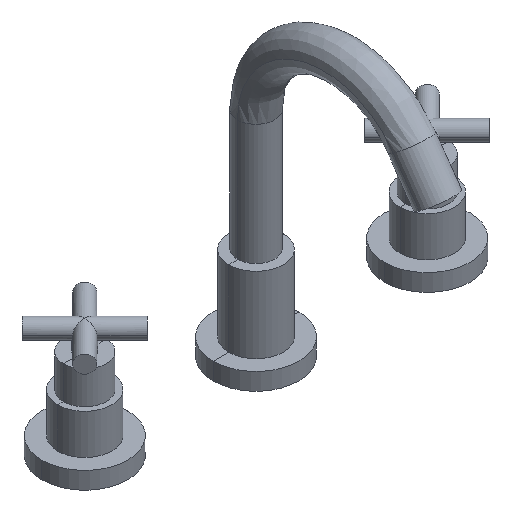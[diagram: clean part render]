
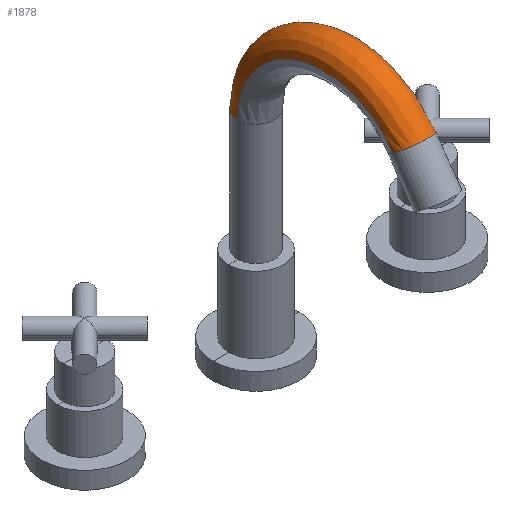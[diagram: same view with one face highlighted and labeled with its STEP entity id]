
A CAD part, isometric view. The second image highlights one B-rep face of the part: STEP entity #1878.
In plain terms, the highlighted free-form (B-spline) face has degree [2, 2] with [5, 5] control points.
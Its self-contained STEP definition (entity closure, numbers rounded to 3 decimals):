
#1779 = VERTEX_POINT('',#1780);
#1780 = CARTESIAN_POINT('',(-13.,-109.149,
    184.415));
#1787 = VERTEX_POINT('',#1788);
#1788 = CARTESIAN_POINT('',(13.,-109.149,
    184.415));
#1811 = EDGE_CURVE('',#1787,#1779,#1812,.T.);
#1812 = CIRCLE('',#1813,13.);
#1813 = AXIS2_PLACEMENT_3D('',#1814,#1815,#1816);
#1814 = CARTESIAN_POINT('',(0.,-109.149,
    184.415));
#1815 = DIRECTION('',(0.,-0.574,
    -0.819));
#1816 = DIRECTION('',(1.,0.,0.));
#1827 = EDGE_CURVE('',#1828,#1787,#1830,.T.);
#1828 = VERTEX_POINT('',#1829);
#1829 = CARTESIAN_POINT('',(13.,0.,
    150.));
#1830 = CIRCLE('',#1831,60.);
#1831 = AXIS2_PLACEMENT_3D('',#1832,#1833,#1834);
#1832 = CARTESIAN_POINT('',(13.,-60.,
    150.));
#1833 = DIRECTION('',(1.,0.,0.));
#1834 = DIRECTION('',(0.,-0.819,0.574));
#1837 = VERTEX_POINT('',#1838);
#1838 = CARTESIAN_POINT('',(-13.,0.,
    150.));
#1845 = EDGE_CURVE('',#1779,#1837,#1846,.T.);
#1846 = CIRCLE('',#1847,60.);
#1847 = AXIS2_PLACEMENT_3D('',#1848,#1849,#1850);
#1848 = CARTESIAN_POINT('',(-13.,-60.,
    150.));
#1849 = DIRECTION('',(-1.,0.,0.));
#1850 = DIRECTION('',(0.,-0.819,0.574));
#1878 = ADVANCED_FACE('',(#1879),#1891,.F.);
#1879 = FACE_BOUND('',#1880,.F.);
#1880 = EDGE_LOOP('',(#1881,#1882,#1889,#1890));
#1881 = ORIENTED_EDGE('',*,*,#1845,.T.);
#1882 = ORIENTED_EDGE('',*,*,#1883,.F.);
#1883 = EDGE_CURVE('',#1828,#1837,#1884,.T.);
#1884 = CIRCLE('',#1885,13.);
#1885 = AXIS2_PLACEMENT_3D('',#1886,#1887,#1888);
#1886 = CARTESIAN_POINT('',(0.,0.,
    150.));
#1887 = DIRECTION('',(0.,0.,1.));
#1888 = DIRECTION('',(1.,0.,0.));
#1889 = ORIENTED_EDGE('',*,*,#1827,.T.);
#1890 = ORIENTED_EDGE('',*,*,#1811,.T.);
#1891 = ( BOUNDED_SURFACE() B_SPLINE_SURFACE(2,2,(
    (#1892,#1893,#1894,#1895,#1896)
    ,(#1897,#1898,#1899,#1900,#1901)
    ,(#1902,#1903,#1904,#1905,#1906)
    ,(#1907,#1908,#1909,#1910,#1911)
    ,(#1912,#1913,#1914,#1915,#1916
)),.UNSPECIFIED.,.F.,.F.,.F.) B_SPLINE_SURFACE_WITH_KNOTS((3,2,3),(3,2,3
    ),(0.,1.571,3.142),(0.,1.265,
2.531),.UNSPECIFIED.) GEOMETRIC_REPRESENTATION_ITEM() 
RATIONAL_B_SPLINE_SURFACE((
    (1.,0.806,1.,0.806,1.)
    ,(0.707,0.57,0.707,0.57
      ,0.707)
    ,(1.,0.806,1.,0.806,1.)
    ,(0.707,0.57,0.707,0.57
      ,0.707)
,(1.,0.806,1.,0.806,1.
))) REPRESENTATION_ITEM('') SURFACE() );
#1892 = CARTESIAN_POINT('',(13.,-109.149,
    184.415));
#1893 = CARTESIAN_POINT('',(13.,-83.915,
    220.452));
#1894 = CARTESIAN_POINT('',(13.,-41.958,
    207.223));
#1895 = CARTESIAN_POINT('',(13.,0.,
    193.994));
#1896 = CARTESIAN_POINT('',(13.,0.,
    150.));
#1897 = CARTESIAN_POINT('',(13.,-119.798,
    191.871));
#1898 = CARTESIAN_POINT('',(13.,-89.097,
    235.717));
#1899 = CARTESIAN_POINT('',(13.,-38.048,
    219.621));
#1900 = CARTESIAN_POINT('',(13.,13.,
    203.526));
#1901 = CARTESIAN_POINT('',(13.,13.,
    150.));
#1902 = CARTESIAN_POINT('',(0.,-119.798,
    191.871));
#1903 = CARTESIAN_POINT('',(0.,-89.097,
    235.717));
#1904 = CARTESIAN_POINT('',(0.,-38.048,
    219.621));
#1905 = CARTESIAN_POINT('',(0.,13.,
    203.526));
#1906 = CARTESIAN_POINT('',(0.,13.,
    150.));
#1907 = CARTESIAN_POINT('',(-13.,-119.798,
    191.871));
#1908 = CARTESIAN_POINT('',(-13.,-89.097,
    235.717));
#1909 = CARTESIAN_POINT('',(-13.,-38.048,
    219.621));
#1910 = CARTESIAN_POINT('',(-13.,13.,
    203.526));
#1911 = CARTESIAN_POINT('',(-13.,13.,
    150.));
#1912 = CARTESIAN_POINT('',(-13.,-109.149,
    184.415));
#1913 = CARTESIAN_POINT('',(-13.,-83.915,
    220.452));
#1914 = CARTESIAN_POINT('',(-13.,-41.958,
    207.223));
#1915 = CARTESIAN_POINT('',(-13.,0.,
    193.994));
#1916 = CARTESIAN_POINT('',(-13.,0.,
    150.));
